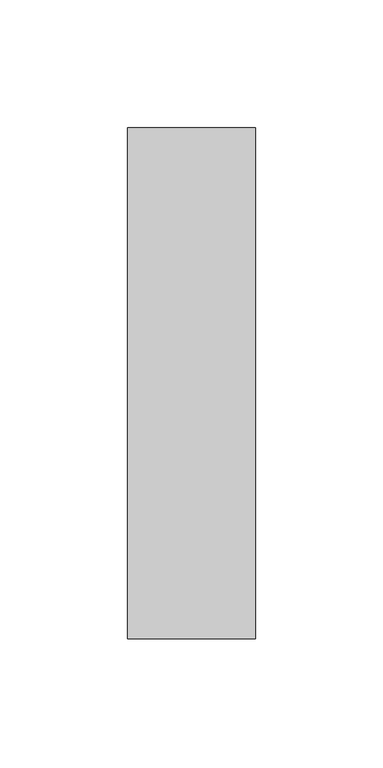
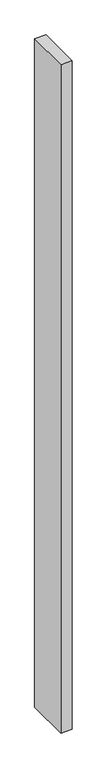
"""IFC4 building model written with IfcOpenShell, lengths in millimetres: proxy geometry, Menneau extrémité façade."""

from ifc_helpers import new_model, si_unit, origin, origin_with_axes, place, context, project, spatial, polyline, outline, extrude, source, transform, mapped, element, save


def generic_models_9dcde390(model_context):
    return source(origin(), model_context, "Body", "SweptSolid", [
        extrude(outline(polyline([(-3899.9988284, -10900.0), (-3949.9987968, -10900.0), (-3949.9987968, -10700.0), (-3899.9988284, -10700.0), (-3899.9988284, -10900.0)])), origin_with_axes(), (0.0, 0.0, 1.0), 3125.470875),
    ])


if __name__ == "__main__":
    model = new_model("IFC4")
    model_context = context("Model", 3, world=origin())
    ifc_project = project(units=[si_unit("LENGTHUNIT", "METRE", prefix="MILLI")], contexts=[model_context])
    site = spatial("IfcSite", under=ifc_project)
    building = spatial("IfcBuilding", under=site)
    placement = place(None, origin())
    generic_models_shape = generic_models_9dcde390(model_context)
    element("IfcBuildingElementProxy", 1, Name="Menneau extrémité façade", ObjectType="Menneau extrémité façade", at=placement, inside=building, context=model_context, shape_type="MappedRepresentation", body=[
        mapped(generic_models_shape, transform((0.0, 0.0, 0.0), x_axis=(1.0, 0.0, 0.0), y_axis=(0.0, 1.0, 0.0), z_axis=(0.0, 0.0, 1.0))),
    ])
    save(model, "model.ifc")
